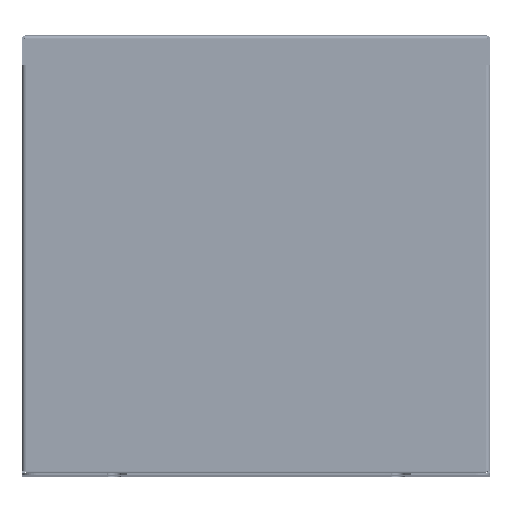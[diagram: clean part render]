
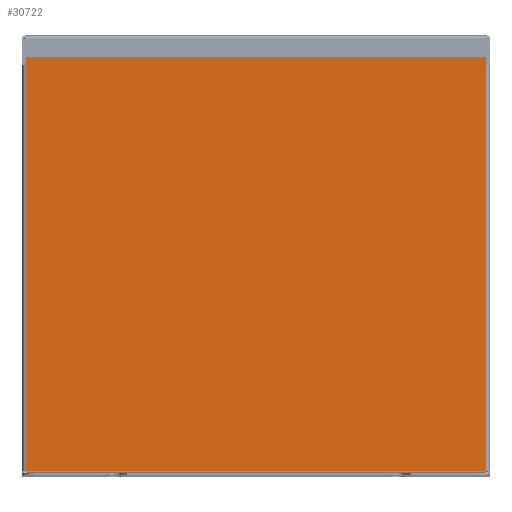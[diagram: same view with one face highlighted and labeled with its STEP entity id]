
A CAD part, top view. The second image highlights one B-rep face of the part: STEP entity #30722.
In plain terms, the highlighted planar face has unit normal (0, 0, 1).
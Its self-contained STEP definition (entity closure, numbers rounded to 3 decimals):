
#9945 = EDGE_CURVE ( 'NONE', #112541, #141597, #120722, .T. ) ;
#10923 = VECTOR ( 'NONE', #15058, 1000. ) ;
#15058 = DIRECTION ( 'NONE',  ( 1., 0., 0. ) ) ;
#22443 = CARTESIAN_POINT ( 'NONE',  ( -162., 295., 275. ) ) ;
#26095 = PLANE ( 'NONE',  #73376 ) ;
#30722 = ADVANCED_FACE ( 'NONE', ( #47418 ), #26095, .F. ) ;
#35978 = ORIENTED_EDGE ( 'NONE', *, *, #96947, .T. ) ;
#45797 = ORIENTED_EDGE ( 'NONE', *, *, #9945, .T. ) ;
#47418 = FACE_OUTER_BOUND ( 'NONE', #213654, .T. ) ;
#70910 = VECTOR ( 'NONE', #90704, 1000. ) ;
#72494 = CARTESIAN_POINT ( 'NONE',  ( -165., 3., 275. ) ) ;
#73376 = AXIS2_PLACEMENT_3D ( 'NONE', #215415, #177825, #233545 ) ;
#86221 = VERTEX_POINT ( 'NONE', #208530 ) ;
#87665 = CARTESIAN_POINT ( 'NONE',  ( 162., 295., 275. ) ) ;
#90704 = DIRECTION ( 'NONE',  ( 1., 0., 0. ) ) ;
#96947 = EDGE_CURVE ( 'NONE', #86221, #110643, #234990, .T. ) ;
#102695 = ORIENTED_EDGE ( 'NONE', *, *, #201517, .F. ) ;
#110643 = VERTEX_POINT ( 'NONE', #228095 ) ;
#112541 = VERTEX_POINT ( 'NONE', #22443 ) ;
#120722 = LINE ( 'NONE', #127500, #153417 ) ;
#121806 = LINE ( 'NONE', #223453, #70910 ) ;
#127500 = CARTESIAN_POINT ( 'NONE',  ( -162., 295., 275. ) ) ;
#133928 = EDGE_CURVE ( 'NONE', #141597, #86221, #193130, .T. ) ;
#141597 = VERTEX_POINT ( 'NONE', #203405 ) ;
#153417 = VECTOR ( 'NONE', #167434, 1000. ) ;
#154221 = VECTOR ( 'NONE', #240445, 1000. ) ;
#167434 = DIRECTION ( 'NONE',  ( 0., -1., 0. ) ) ;
#177825 = DIRECTION ( 'NONE',  ( 0., 0., -1. ) ) ;
#183133 = ORIENTED_EDGE ( 'NONE', *, *, #133928, .T. ) ;
#193130 = LINE ( 'NONE', #72494, #10923 ) ;
#201517 = EDGE_CURVE ( 'NONE', #112541, #110643, #121806, .T. ) ;
#203405 = CARTESIAN_POINT ( 'NONE',  ( -162., 3., 275. ) ) ;
#208530 = CARTESIAN_POINT ( 'NONE',  ( 162., 3., 275. ) ) ;
#213654 = EDGE_LOOP ( 'NONE', ( #183133, #35978, #102695, #45797 ) ) ;
#215415 = CARTESIAN_POINT ( 'NONE',  ( -165., 295., 275. ) ) ;
#223453 = CARTESIAN_POINT ( 'NONE',  ( -165., 295., 275. ) ) ;
#228095 = CARTESIAN_POINT ( 'NONE',  ( 162., 295., 275. ) ) ;
#233545 = DIRECTION ( 'NONE',  ( -1., 0., 0. ) ) ;
#234990 = LINE ( 'NONE', #87665, #154221 ) ;
#240445 = DIRECTION ( 'NONE',  ( 0., 1., 0. ) ) ;
